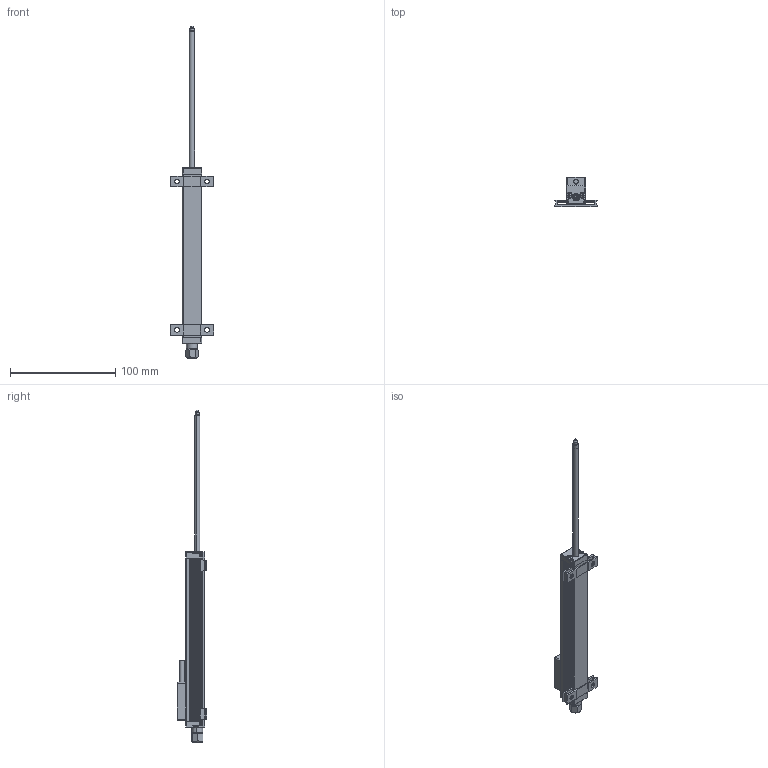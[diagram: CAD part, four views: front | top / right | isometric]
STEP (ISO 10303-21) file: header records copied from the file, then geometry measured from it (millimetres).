
FILE_DESCRIPTION (( 'STEP AP214' ), '1' );
FILE_NAME ('LTR-100 A-V Kablolu.STEP', '2020-12-16T05:30:25', ( '' ), ( '' ), 'SwSTEP 2.0', 'SolidWorks 2014', '' );
FILE_SCHEMA (( 'AUTOMOTIVE_DESIGN' ));
Length unit declared in the file: millimetre
Products named in the file (1): LTR-100 A-V Kablolu
Bounding box: 41 x 28.1 x 315.4 mm (x, y, z)
Surface area: 22932.1 mm2 (no closed solid volume)
Topology: 0 solids, 18 shells, 479 faces, 1472 edges, 953 vertices
Faces by surface type: plane 214, cylinder 161, cone 42, sphere 34, torus 28
Entity records: 21647 total; most frequent: CARTESIAN_POINT 3312, DIRECTION 2905, ORIENTED_EDGE 2489, EDGE_CURVE 1442, AXIS2_PLACEMENT_3D 1086, VERTEX_POINT 953, LINE 733, VECTOR 733
